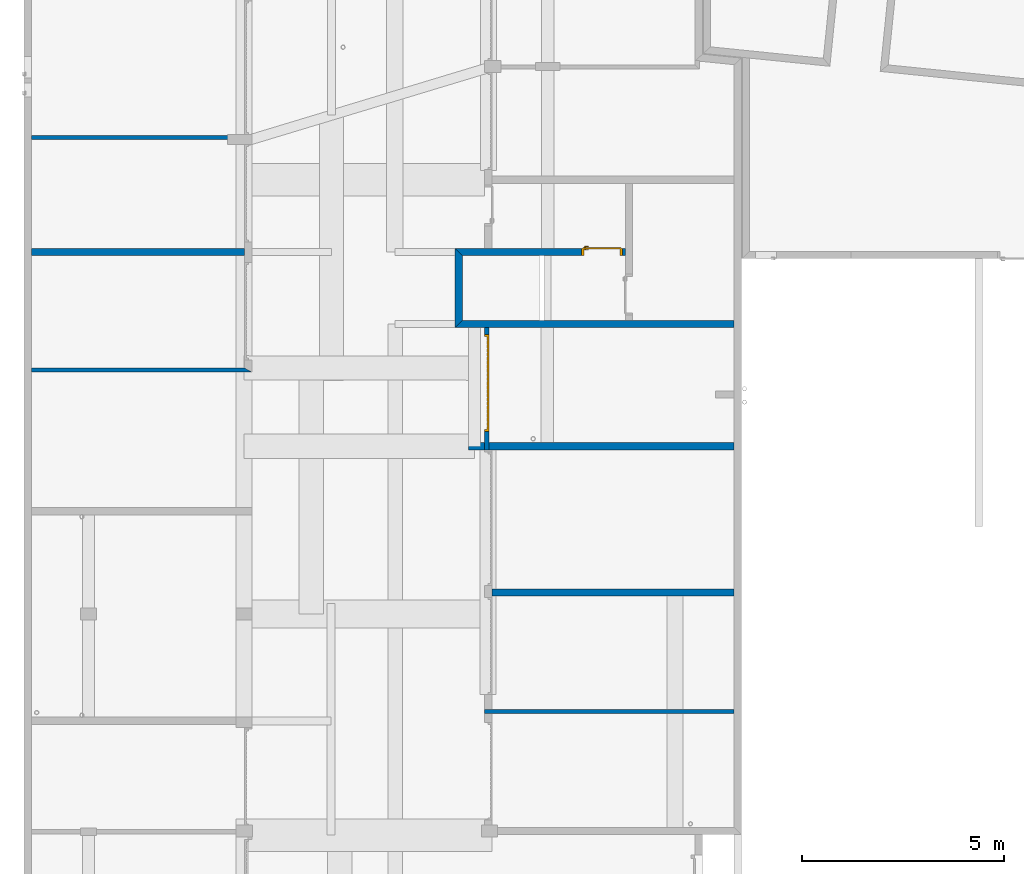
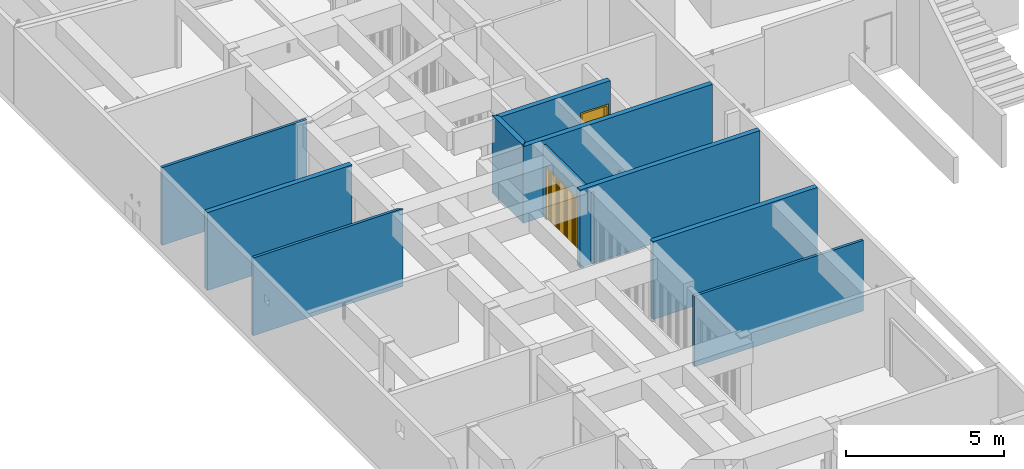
# One storey, part 9 of 41: 10 walls, 2 doors, 2 openings.
"""IFC2X3 building model written with IfcOpenShell, lengths in millimetres."""

from ifc_helpers import new_model, entity, si_unit, converted_unit, derived_unit, money_unit, direction, frame, origin_with_axes, origin_2d_with_axis, place, context, subcontext, project, spatial, polyline, rectangle, outline, extrude, faceted_brep, source, transform, mapped, material, layer, layer_set, layer_usage, type_object, element, fill, save


model = new_model("IFC2X3")

# Units and contexts
model_context = context("Model", 3, precision=0.01, world=origin_with_axes(), true_north=direction((0.0, 1.0)))
body_context = subcontext(model_context, "Body", "Model", "MODEL_VIEW")
ifc_project = project(units=[si_unit("LENGTHUNIT", "METRE", prefix="MILLI"), si_unit("AREAUNIT", "SQUARE_METRE"), si_unit("VOLUMEUNIT", "CUBIC_METRE"), converted_unit("PLANEANGLEUNIT", "DEGREE", entity("IfcPlaneAngleMeasure", 0.0174532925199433), si_unit("PLANEANGLEUNIT", "RADIAN"), dimensions=[0, 0, 0, 0, 0, 0, 0]), money_unit("USD"), converted_unit("TIMEUNIT", "Year", entity("IfcTimeMeasure", 31557600.0), si_unit("TIMEUNIT", "SECOND"), dimensions=[0, 0, 1, 0, 0, 0, 0]), si_unit("MASSUNIT", "GRAM", prefix="KILO"), si_unit("THERMODYNAMICTEMPERATUREUNIT", "DEGREE_CELSIUS"), si_unit("LUMINOUSINTENSITYUNIT", "LUMEN"), si_unit("ENERGYUNIT", "JOULE", prefix="MEGA"), derived_unit("THERMALCONDUCTANCEUNIT", [(si_unit("POWERUNIT", "WATT"), 1), (si_unit("LENGTHUNIT", "METRE"), -1), (si_unit("THERMODYNAMICTEMPERATUREUNIT", "KELVIN"), -1)]), derived_unit("SPECIFICHEATCAPACITYUNIT", [(si_unit("ENERGYUNIT", "JOULE"), 1), (si_unit("MASSUNIT", "GRAM", prefix="KILO"), -1), (si_unit("THERMODYNAMICTEMPERATUREUNIT", "KELVIN"), -1)]), derived_unit("MASSDENSITYUNIT", [(si_unit("MASSUNIT", "GRAM", prefix="KILO"), 1), (si_unit("VOLUMEUNIT", "CUBIC_METRE"), -1)])], contexts=[model_context])

# Site, building, storey
site_placement = place(None, origin_with_axes())
site = spatial("IfcSite", under=ifc_project, at=site_placement, Name="Site", CompositionType="ELEMENT")
building_placement = place(site_placement, origin_with_axes())
building = spatial("IfcBuilding", under=site, at=building_placement, Name="Bâtiment", CompositionType="ELEMENT")
storey_placement = place(building_placement, origin_with_axes())
storey = spatial("IfcBuildingStorey", under=building, at=storey_placement, Name="sousol", CompositionType="ELEMENT", Elevation=0.0)

# Walls
ifc_material_1 = material(Name="Brique 1 268964100")
ifc_layer_1 = layer(ifc_material_1, 100.0, ventilated="UNKNOWN")
ifc_layer_set_1 = layer_set([ifc_layer_1], Name="Cloison 100 gaine")
ifc_layer_usage_1 = layer_usage(ifc_layer_set_1, "AXIS2", "POSITIVE", 0.0)
wall_type_1 = type_object("IfcWallType", Name="Cloison 100 gaine 100", PredefinedType="NOTDEFINED")
wall_1_placement = place(storey_placement, frame((2228014.168637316, -643926.7765982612, 0.0), z_axis=(0.0, 0.0, 1.0), x_axis=(1.0, 0.0, 0.0)))
element("IfcWallStandardCase", 1, at=wall_1_placement, inside=storey, type_object=wall_type_1, material=ifc_layer_usage_1, Name="Mur-133", context=body_context, shape_type="SweptSolid", body=[
    extrude(outline(polyline([(0.0, 0.0), (6162.472707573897, 0.0), (6162.472707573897, 99.99999999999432), (0.0, 99.99999999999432), (0.0, 0.0)])), origin_with_axes(), (0.0, 0.0, 1.0), 2719.999999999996),
])
ifc_layer_usage_2 = layer_usage(ifc_layer_set_1, "AXIS2", "POSITIVE", 0.0)
wall_2_placement = place(storey_placement, frame((2216814.23334483, -635493.6794354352, 0.0), z_axis=(0.0, 0.0, 1.0), x_axis=(1.0, 0.0, 0.0)))
element("IfcWallStandardCase", 2, at=wall_2_placement, inside=storey, type_object=wall_type_1, material=ifc_layer_usage_2, Name="Mur-133", context=body_context, shape_type="SweptSolid", body=[
    extrude(outline(polyline([(0.0, 0.0), (5450.000000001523, 0.0), (5270.000000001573, 99.99999999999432), (0.0, 99.99999999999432), (0.0, 0.0)])), origin_with_axes(), (0.0, 0.0, 1.0), 3000.0),
])
ifc_layer_usage_3 = layer_usage(ifc_layer_set_1, "AXIS2", "POSITIVE", 0.0)
wall_3_placement = place(storey_placement, frame((2216814.23334483, -629749.321780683, 0.0), z_axis=(0.0, 0.0, 1.0), x_axis=(1.0, 0.0, 0.0)))
element("IfcWallStandardCase", 3, at=wall_3_placement, inside=storey, type_object=wall_type_1, material=ifc_layer_usage_3, Name="Mur-133", context=body_context, shape_type="SweptSolid", body=[
    extrude(outline(polyline([(0.0, 0.0), (5270.000000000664, 0.0), (5270.000000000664, 100.0000000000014), (0.0, 100.0000000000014), (0.0, 0.0)])), origin_with_axes(), (0.0, 0.0, 1.0), 3000.0),
])

# Wall, opening, door
ifc_layer_usage_4 = layer_usage(ifc_layer_set_1, "AXIS2", "POSITIVE", 0.0)
wall_4_placement = place(storey_placement, frame((2228014.233345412, -634213.5146792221, 0.0), z_axis=(0.0, 0.0, 1.0), x_axis=(-5.662972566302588e-10, -1.0, 0.0)))
wall_4 = element("IfcWallStandardCase", 4, at=wall_4_placement, inside=storey, type_object=wall_type_1, material=ifc_layer_usage_4, Name="Mur-133", context=body_context, shape_type="SweptSolid", body=[
    extrude(outline(polyline([(180.0000000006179, 0.0), (3199.829215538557, 0.0), (3199.829215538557, 100.0000000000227), (179.9999999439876, 100.0000000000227), (180.0000000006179, 0.0)])), origin_with_axes(), (0.0, 0.0, 1.0), 2769.999999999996),
])
opening_1_placement = place(wall_4_placement, frame((1550.401917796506, 0.0, 0.0), z_axis=(0.0, 0.0, 1.0), x_axis=(1.0, 0.0, 0.0)))
opening_1 = element("IfcOpeningElement", 5, at=opening_1_placement, cuts=wall_4, Name="Por-296", context=body_context, shape_type="SweptSolid", body=[
    extrude(rectangle(XDim=2400.000000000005, YDim=2050.0, at=origin_2d_with_axis()), frame((-5.663025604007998e-08, 100.0000008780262, 1025.0), z_axis=(5.66297072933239e-10, -1.0, 0.0), x_axis=(1.0, 5.66297072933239e-10, 0.0)), (0.0, 0.0, -1.0), 100.0),
    extrude(rectangle(XDim=2400.000000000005, YDim=2050.0, at=origin_2d_with_axis()), frame((-5.663025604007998e-08, 100.0000008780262, 1025.0), z_axis=(-5.66297072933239e-10, 1.0, 0.0), x_axis=(1.0, 5.66297072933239e-10, 0.0)), (0.0, 0.0, -1.0), 100.0),
])
door_style_1 = type_object("IfcDoorStyle", Name="P_garage 1", ConstructionType="NOTDEFINED", OperationType="NOTDEFINED", ParameterTakesPrecedence=False, Sizeable=False)
shared_shape_1 = source(origin_with_axes(), body_context, "Body", "Brep", [
    faceted_brep([(1200.0, 0.0, 0.0), (1200.0, -99.99999999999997, 0.0), (1150.0, -99.99999999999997, 0.0), (1150.0, 0.0, 0.0), (1200.0, 0.0, 2050.0), (1200.0, -99.99999999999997, 2050.0), (-1200.0, -99.99999999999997, 2050.0), (-1200.0, -99.99999999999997, 0.0), (-1150.0, -99.99999999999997, 0.0), (-1150.0, -99.99999999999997, 2000.0), (1150.0, -99.99999999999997, 2000.0), (1150.0, 0.0, 2000.0), (-1150.0, 0.0, 2000.0), (-1150.0, 0.0, 0.0), (-1200.0, 0.0, 0.0), (-1200.0, 0.0, 2050.0)], [[[0, 1, 2, 3]], [[4, 5, 1, 0]], [[1, 5, 6, 7, 8, 9, 10, 2]], [[3, 2, 10, 11]], [[0, 3, 11, 12, 13, 14, 15, 4]], [[15, 6, 5, 4]], [[14, 7, 6, 15]], [[13, 8, 7, 14]], [[12, 9, 8, 13]], [[11, 10, 9, 12]]]),
    faceted_brep([(1069.130434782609, -39.99999999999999, 0.0), (1069.130434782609, -39.99999999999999, 2000.0), (1069.130434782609, -26.66666666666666, 2000.0), (1069.130434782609, -26.66666666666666, 0.0), (1150.0, -39.99999999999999, 0.0), (1150.0, -39.99999999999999, 2000.0), (1150.0, -26.66666666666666, 2000.0), (1150.0, -26.66666666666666, 0.0)], [[[0, 1, 2, 3]], [[0, 4, 5, 1]], [[1, 5, 6, 2]], [[3, 2, 6, 7]], [[4, 0, 3, 7]], [[5, 4, 7, 6]]]),
    faceted_brep([(968.2608695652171, -39.99999999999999, 0.0), (968.2608695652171, -39.99999999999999, 2000.0), (968.2608695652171, -26.66666666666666, 2000.0), (968.2608695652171, -26.66666666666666, 0.0), (1049.130434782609, -39.99999999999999, 0.0), (1049.130434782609, -39.99999999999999, 2000.0), (1049.130434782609, -26.66666666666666, 2000.0), (1049.130434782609, -26.66666666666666, 0.0)], [[[0, 1, 2, 3]], [[0, 4, 5, 1]], [[1, 5, 6, 2]], [[3, 2, 6, 7]], [[4, 0, 3, 7]], [[5, 4, 7, 6]]]),
    faceted_brep([(867.3913043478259, -39.99999999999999, 0.0), (867.3913043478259, -39.99999999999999, 2000.0), (867.3913043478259, -26.66666666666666, 2000.0), (867.3913043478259, -26.66666666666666, 0.0), (948.260869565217, -39.99999999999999, 0.0), (948.260869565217, -39.99999999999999, 2000.0), (948.260869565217, -26.66666666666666, 2000.0), (948.260869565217, -26.66666666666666, 0.0)], [[[0, 1, 2, 3]], [[0, 4, 5, 1]], [[1, 5, 6, 2]], [[3, 2, 6, 7]], [[4, 0, 3, 7]], [[5, 4, 7, 6]]]),
    faceted_brep([(766.5217391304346, -39.99999999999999, 0.0), (766.5217391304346, -39.99999999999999, 2000.0), (766.5217391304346, -26.66666666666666, 2000.0), (766.5217391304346, -26.66666666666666, 0.0), (847.3913043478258, -39.99999999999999, 0.0), (847.3913043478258, -39.99999999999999, 2000.0), (847.3913043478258, -26.66666666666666, 2000.0), (847.3913043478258, -26.66666666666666, 0.0)], [[[0, 1, 2, 3]], [[0, 4, 5, 1]], [[1, 5, 6, 2]], [[3, 2, 6, 7]], [[4, 0, 3, 7]], [[5, 4, 7, 6]]]),
    faceted_brep([(665.6521739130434, -39.99999999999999, 0.0), (665.6521739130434, -39.99999999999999, 2000.0), (665.6521739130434, -26.66666666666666, 2000.0), (665.6521739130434, -26.66666666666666, 0.0), (746.5217391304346, -39.99999999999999, 0.0), (746.5217391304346, -39.99999999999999, 2000.0), (746.5217391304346, -26.66666666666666, 2000.0), (746.5217391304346, -26.66666666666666, 0.0)], [[[0, 1, 2, 3]], [[0, 4, 5, 1]], [[1, 5, 6, 2]], [[3, 2, 6, 7]], [[4, 0, 3, 7]], [[5, 4, 7, 6]]]),
    faceted_brep([(564.7826086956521, -39.99999999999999, 0.0), (564.7826086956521, -39.99999999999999, 2000.0), (564.7826086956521, -26.66666666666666, 2000.0), (564.7826086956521, -26.66666666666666, 0.0), (645.6521739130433, -39.99999999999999, 0.0), (645.6521739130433, -39.99999999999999, 2000.0), (645.6521739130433, -26.66666666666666, 2000.0), (645.6521739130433, -26.66666666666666, 0.0)], [[[0, 1, 2, 3]], [[0, 4, 5, 1]], [[1, 5, 6, 2]], [[3, 2, 6, 7]], [[4, 0, 3, 7]], [[5, 4, 7, 6]]]),
    faceted_brep([(463.9130434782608, -39.99999999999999, 0.0), (463.9130434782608, -39.99999999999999, 2000.0), (463.9130434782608, -26.66666666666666, 2000.0), (463.9130434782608, -26.66666666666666, 0.0), (544.782608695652, -39.99999999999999, 0.0), (544.782608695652, -39.99999999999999, 2000.0), (544.782608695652, -26.66666666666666, 2000.0), (544.782608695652, -26.66666666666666, 0.0)], [[[0, 1, 2, 3]], [[0, 4, 5, 1]], [[1, 5, 6, 2]], [[3, 2, 6, 7]], [[4, 0, 3, 7]], [[5, 4, 7, 6]]]),
    faceted_brep([(363.0434782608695, -39.99999999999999, 0.0), (363.0434782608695, -39.99999999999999, 2000.0), (363.0434782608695, -26.66666666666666, 2000.0), (363.0434782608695, -26.66666666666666, 0.0), (443.9130434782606, -39.99999999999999, 0.0), (443.9130434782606, -39.99999999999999, 2000.0), (443.9130434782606, -26.66666666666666, 2000.0), (443.9130434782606, -26.66666666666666, 0.0)], [[[0, 1, 2, 3]], [[0, 4, 5, 1]], [[1, 5, 6, 2]], [[3, 2, 6, 7]], [[4, 0, 3, 7]], [[5, 4, 7, 6]]]),
    faceted_brep([(262.1739130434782, -39.99999999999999, 0.0), (262.1739130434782, -39.99999999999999, 2000.0), (262.1739130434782, -26.66666666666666, 2000.0), (262.1739130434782, -26.66666666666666, 0.0), (343.0434782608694, -39.99999999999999, 0.0), (343.0434782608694, -39.99999999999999, 2000.0), (343.0434782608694, -26.66666666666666, 2000.0), (343.0434782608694, -26.66666666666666, 0.0)], [[[0, 1, 2, 3]], [[0, 4, 5, 1]], [[1, 5, 6, 2]], [[3, 2, 6, 7]], [[4, 0, 3, 7]], [[5, 4, 7, 6]]]),
    faceted_brep([(161.3043478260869, -39.99999999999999, 0.0), (161.3043478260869, -39.99999999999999, 2000.0), (161.3043478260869, -26.66666666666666, 2000.0), (161.3043478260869, -26.66666666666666, 0.0), (242.1739130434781, -39.99999999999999, 0.0), (242.1739130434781, -39.99999999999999, 2000.0), (242.1739130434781, -26.66666666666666, 2000.0), (242.1739130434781, -26.66666666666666, 0.0)], [[[0, 1, 2, 3]], [[0, 4, 5, 1]], [[1, 5, 6, 2]], [[3, 2, 6, 7]], [[4, 0, 3, 7]], [[5, 4, 7, 6]]]),
    faceted_brep([(60.43478260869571, -39.99999999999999, 0.0), (60.43478260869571, -39.99999999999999, 2000.0), (60.43478260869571, -26.66666666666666, 2000.0), (60.43478260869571, -26.66666666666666, 0.0), (141.3043478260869, -39.99999999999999, 0.0), (141.3043478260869, -39.99999999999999, 2000.0), (141.3043478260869, -26.66666666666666, 2000.0), (141.3043478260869, -26.66666666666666, 0.0)], [[[0, 1, 2, 3]], [[0, 4, 5, 1]], [[1, 5, 6, 2]], [[3, 2, 6, 7]], [[4, 0, 3, 7]], [[5, 4, 7, 6]]]),
    faceted_brep([(-40.43478260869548, -39.99999999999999, 0.0), (-40.43478260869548, -39.99999999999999, 2000.0), (-40.43478260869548, -26.66666666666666, 2000.0), (-40.43478260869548, -26.66666666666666, 0.0), (40.4347826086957, -39.99999999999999, 0.0), (40.4347826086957, -39.99999999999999, 2000.0), (40.4347826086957, -26.66666666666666, 2000.0), (40.4347826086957, -26.66666666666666, 0.0)], [[[0, 1, 2, 3]], [[0, 4, 5, 1]], [[1, 5, 6, 2]], [[3, 2, 6, 7]], [[4, 0, 3, 7]], [[5, 4, 7, 6]]]),
    faceted_brep([(-141.3043478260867, -39.99999999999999, 0.0), (-141.3043478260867, -39.99999999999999, 2000.0), (-141.3043478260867, -26.66666666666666, 2000.0), (-141.3043478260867, -26.66666666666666, 0.0), (-60.43478260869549, -39.99999999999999, 0.0), (-60.43478260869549, -39.99999999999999, 2000.0), (-60.43478260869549, -26.66666666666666, 2000.0), (-60.43478260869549, -26.66666666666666, 0.0)], [[[0, 1, 2, 3]], [[0, 4, 5, 1]], [[1, 5, 6, 2]], [[3, 2, 6, 7]], [[4, 0, 3, 7]], [[5, 4, 7, 6]]]),
    faceted_brep([(-242.1739130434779, -39.99999999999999, 0.0), (-242.1739130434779, -39.99999999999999, 2000.0), (-242.1739130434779, -26.66666666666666, 2000.0), (-242.1739130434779, -26.66666666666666, 0.0), (-161.3043478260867, -39.99999999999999, 0.0), (-161.3043478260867, -39.99999999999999, 2000.0), (-161.3043478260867, -26.66666666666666, 2000.0), (-161.3043478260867, -26.66666666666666, 0.0)], [[[0, 1, 2, 3]], [[0, 4, 5, 1]], [[1, 5, 6, 2]], [[3, 2, 6, 7]], [[4, 0, 3, 7]], [[5, 4, 7, 6]]]),
    faceted_brep([(-343.0434782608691, -39.99999999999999, 0.0), (-343.0434782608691, -39.99999999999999, 2000.0), (-343.0434782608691, -26.66666666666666, 2000.0), (-343.0434782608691, -26.66666666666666, 0.0), (-262.1739130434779, -39.99999999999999, 0.0), (-262.1739130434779, -39.99999999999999, 2000.0), (-262.1739130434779, -26.66666666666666, 2000.0), (-262.1739130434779, -26.66666666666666, 0.0)], [[[0, 1, 2, 3]], [[0, 4, 5, 1]], [[1, 5, 6, 2]], [[3, 2, 6, 7]], [[4, 0, 3, 7]], [[5, 4, 7, 6]]]),
    faceted_brep([(-443.9130434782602, -39.99999999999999, 0.0), (-443.9130434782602, -39.99999999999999, 2000.0), (-443.9130434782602, -26.66666666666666, 2000.0), (-443.9130434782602, -26.66666666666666, 0.0), (-363.0434782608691, -39.99999999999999, 0.0), (-363.0434782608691, -39.99999999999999, 2000.0), (-363.0434782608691, -26.66666666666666, 2000.0), (-363.0434782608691, -26.66666666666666, 0.0)], [[[0, 1, 2, 3]], [[0, 4, 5, 1]], [[1, 5, 6, 2]], [[3, 2, 6, 7]], [[4, 0, 3, 7]], [[5, 4, 7, 6]]]),
    faceted_brep([(-544.7826086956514, -39.99999999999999, 0.0), (-544.7826086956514, -39.99999999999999, 2000.0), (-544.7826086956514, -26.66666666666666, 2000.0), (-544.7826086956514, -26.66666666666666, 0.0), (-463.9130434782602, -39.99999999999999, 0.0), (-463.9130434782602, -39.99999999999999, 2000.0), (-463.9130434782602, -26.66666666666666, 2000.0), (-463.9130434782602, -26.66666666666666, 0.0)], [[[0, 1, 2, 3]], [[0, 4, 5, 1]], [[1, 5, 6, 2]], [[3, 2, 6, 7]], [[4, 0, 3, 7]], [[5, 4, 7, 6]]]),
    faceted_brep([(-645.6521739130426, -39.99999999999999, 0.0), (-645.6521739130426, -39.99999999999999, 2000.0), (-645.6521739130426, -26.66666666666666, 2000.0), (-645.6521739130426, -26.66666666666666, 0.0), (-564.7826086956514, -39.99999999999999, 0.0), (-564.7826086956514, -39.99999999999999, 2000.0), (-564.7826086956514, -26.66666666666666, 2000.0), (-564.7826086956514, -26.66666666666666, 0.0)], [[[0, 1, 2, 3]], [[0, 4, 5, 1]], [[1, 5, 6, 2]], [[3, 2, 6, 7]], [[4, 0, 3, 7]], [[5, 4, 7, 6]]]),
    faceted_brep([(-746.5217391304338, -39.99999999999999, 0.0), (-746.5217391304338, -39.99999999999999, 2000.0), (-746.5217391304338, -26.66666666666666, 2000.0), (-746.5217391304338, -26.66666666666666, 0.0), (-665.6521739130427, -39.99999999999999, 0.0), (-665.6521739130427, -39.99999999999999, 2000.0), (-665.6521739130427, -26.66666666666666, 2000.0), (-665.6521739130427, -26.66666666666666, 0.0)], [[[0, 1, 2, 3]], [[0, 4, 5, 1]], [[1, 5, 6, 2]], [[3, 2, 6, 7]], [[4, 0, 3, 7]], [[5, 4, 7, 6]]]),
    faceted_brep([(-847.391304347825, -39.99999999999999, 0.0), (-847.391304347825, -39.99999999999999, 2000.0), (-847.391304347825, -26.66666666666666, 2000.0), (-847.391304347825, -26.66666666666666, 0.0), (-766.5217391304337, -39.99999999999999, 0.0), (-766.5217391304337, -39.99999999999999, 2000.0), (-766.5217391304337, -26.66666666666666, 2000.0), (-766.5217391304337, -26.66666666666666, 0.0)], [[[0, 1, 2, 3]], [[0, 4, 5, 1]], [[1, 5, 6, 2]], [[3, 2, 6, 7]], [[4, 0, 3, 7]], [[5, 4, 7, 6]]]),
    faceted_brep([(-948.2608695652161, -39.99999999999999, 0.0), (-948.2608695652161, -39.99999999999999, 2000.0), (-948.2608695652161, -26.66666666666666, 2000.0), (-948.2608695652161, -26.66666666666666, 0.0), (-867.391304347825, -39.99999999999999, 0.0), (-867.391304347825, -39.99999999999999, 2000.0), (-867.391304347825, -26.66666666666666, 2000.0), (-867.391304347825, -26.66666666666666, 0.0)], [[[0, 1, 2, 3]], [[0, 4, 5, 1]], [[1, 5, 6, 2]], [[3, 2, 6, 7]], [[4, 0, 3, 7]], [[5, 4, 7, 6]]]),
    faceted_brep([(-1049.130434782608, -39.99999999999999, 0.0), (-1049.130434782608, -39.99999999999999, 2000.0), (-1049.130434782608, -26.66666666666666, 2000.0), (-1049.130434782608, -26.66666666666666, 0.0), (-968.2608695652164, -39.99999999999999, 0.0), (-968.2608695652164, -39.99999999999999, 2000.0), (-968.2608695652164, -26.66666666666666, 2000.0), (-968.2608695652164, -26.66666666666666, 0.0)], [[[0, 1, 2, 3]], [[0, 4, 5, 1]], [[1, 5, 6, 2]], [[3, 2, 6, 7]], [[4, 0, 3, 7]], [[5, 4, 7, 6]]]),
    faceted_brep([(-1149.999999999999, -39.99999999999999, 0.0), (-1149.999999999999, -39.99999999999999, 2000.0), (-1149.999999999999, -26.66666666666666, 2000.0), (-1149.999999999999, -26.66666666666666, 0.0), (-1069.130434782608, -39.99999999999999, 0.0), (-1069.130434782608, -39.99999999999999, 2000.0), (-1069.130434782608, -26.66666666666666, 2000.0), (-1069.130434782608, -26.66666666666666, 0.0)], [[[0, 1, 2, 3]], [[0, 4, 5, 1]], [[1, 5, 6, 2]], [[3, 2, 6, 7]], [[4, 0, 3, 7]], [[5, 4, 7, 6]]]),
    faceted_brep([(1150.0, -26.66666666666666, 0.0), (-1150.0, -26.66666666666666, 0.0), (-1150.0, 0.0, 0.0), (1150.0, 0.0, 0.0), (1150.0, -26.66666666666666, 2000.0), (-1150.0, -26.66666666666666, 2000.0), (-1150.0, 0.0, 2000.0), (1150.0, 0.0, 2000.0)], [[[0, 1, 2, 3]], [[0, 4, 5, 1]], [[1, 5, 6, 2]], [[3, 2, 6, 7]], [[4, 0, 3, 7]], [[5, 4, 7, 6]]]),
])
door_1_placement = place(opening_1_placement, frame((-1200.000000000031, 1.13686837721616e-10, 0.0), z_axis=(0.0, 0.0, 1.0), x_axis=(1.0, 0.0, 0.0)))
door_1 = element("IfcDoor", 6, at=door_1_placement, inside=storey, type_object=door_style_1, Name="Por-296", OverallHeight=2050.0, OverallWidth=2400.0, context=body_context, shape_type="MappedRepresentation", body=[
    mapped(shared_shape_1, transform((1199.999999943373, 100.0000008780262, 0.0))),
])
fill(opening_1, door_1)

# Walls
ifc_material_2 = material(Name="Parpaing 314940890")
ifc_layer_2 = layer(ifc_material_2, 180.0, ventilated="UNKNOWN")
ifc_layer_set_2 = layer_set([ifc_layer_2], Name="Beton  18 0170347028")
ifc_layer_usage_5 = layer_usage(ifc_layer_set_2, "AXIS2", "POSITIVE", 0.0)
wall_type_2 = type_object("IfcWallType", Name="Beton  18 0170347028 180", PredefinedType="NOTDEFINED")
wall_5_placement = place(storey_placement, frame((2227463.753206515, -634213.5146792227, 0.0), z_axis=(0.0, 0.0, 1.0), x_axis=(0.0, 1.0, 0.0)))
element("IfcWallStandardCase", 7, at=wall_5_placement, inside=storey, type_object=wall_type_2, material=ifc_layer_usage_5, Name="Mur-133", context=body_context, shape_type="SweptSolid", body=[
    extrude(outline(polyline([(0.0, 0.0), (1600.00000000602, 0.0), (1780.000000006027, 179.99999999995), (-180.0000000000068, 179.99999999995), (0.0, 0.0)])), origin_with_axes(), (0.0, 0.0, 1.0), 3000.0),
])
ifc_layer_usage_6 = layer_usage(ifc_layer_set_2, "AXIS2", "NEGATIVE", 0.0)
wall_6_placement = place(storey_placement, frame((2227463.753206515, -634213.5146792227, 0.0), z_axis=(0.0, 0.0, 1.0), x_axis=(1.0, 0.0, 0.0)))
element("IfcWallStandardCase", 8, at=wall_6_placement, inside=storey, type_object=wall_type_2, material=ifc_layer_usage_6, Name="Mur-133", context=body_context, shape_type="SweptSolid", body=[
    extrude(outline(polyline([(-179.99999999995, -180.0000000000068), (6712.88813837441, -180.0000000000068), (6712.88813837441, 0.0), (0.0, 0.0), (-179.99999999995, -180.0000000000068)])), origin_with_axes(), (0.0, 0.0, 1.0), 2950.0),
])

# Wall, opening, door
ifc_layer_usage_7 = layer_usage(ifc_layer_set_2, "AXIS2", "POSITIVE", 0.0)
wall_7_placement = place(storey_placement, frame((2227463.753206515, -632613.5146792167, 0.0), z_axis=(0.0, 0.0, 1.0), x_axis=(1.0, 0.0, 0.0)))
wall_7 = element("IfcWallStandardCase", 9, at=wall_7_placement, inside=storey, type_object=wall_type_2, material=ifc_layer_usage_7, Name="Mur-133", context=body_context, shape_type="SweptSolid", body=[
    extrude(outline(polyline([(0.0, 0.0), (4025.102469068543, 0.0), (4025.102469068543, 180.0000000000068), (-179.99999999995, 180.0000000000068), (0.0, 0.0)])), origin_with_axes(), (0.0, 0.0, 1.0), 2950.0),
])
opening_2_placement = place(wall_7_placement, frame((3447.66105387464, 0.0, 0.0), z_axis=(0.0, 0.0, 1.0), x_axis=(1.0, 0.0, 0.0)))
opening_2 = element("IfcOpeningElement", 10, at=opening_2_placement, cuts=wall_7, Name="Por-299", context=body_context, shape_type="SweptSolid", body=[
    extrude(rectangle(XDim=1010.00001192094, YDim=2080.0, at=origin_2d_with_axis()), frame((5.960487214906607e-06, -180.0000000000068, 1040.0), z_axis=(0.0, 1.0, 0.0), x_axis=(1.0, 0.0, 0.0)), (0.0, 0.0, 1.0), 360.0),
])
door_style_2 = type_object("IfcDoorStyle", Name="Porte_1v", ConstructionType="NOTDEFINED", OperationType="NOTDEFINED", ParameterTakesPrecedence=False, Sizeable=False)
shared_shape_2 = source(origin_with_axes(), body_context, "Body", "Brep", [
    faceted_brep([(505.0, 0.0, 0.0), (465.0, 0.0, 0.0), (464.9999999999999, 0.0, 2040.0), (-464.9999999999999, 0.0, 2040.0), (-465.0, 0.0, 0.0), (-505.0, 0.0, 0.0), (-505.0, 0.0, 2080.0), (505.0, 0.0, 2080.0), (505.0, -180.0, 0.0), (450.0, -180.0, 0.0), (450.0, -15.0, 0.0), (465.0, -15.0, 0.0), (464.9999999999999, -15.0, 2040.0), (-464.9999999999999, -15.0, 2040.0), (-465.0, -15.0, 0.0), (-450.0, -15.0, 0.0), (-450.0, -180.0, 0.0), (-505.0, -180.0, 0.0), (-505.0, -180.0, 2080.0), (505.0, -180.0, 2080.0), (-450.0, -180.0, 2025.0), (450.0, -180.0, 2025.0), (450.0, -15.0, 2025.0), (-450.0, -15.0, 2025.0)], [[[0, 1, 2, 3, 4, 5, 6, 7]], [[0, 8, 9, 10, 11, 1]], [[1, 11, 12, 2]], [[2, 12, 13, 3]], [[3, 13, 14, 4]], [[5, 4, 14, 15, 16, 17]], [[18, 6, 5, 17]], [[19, 7, 6, 18]], [[8, 0, 7, 19]], [[9, 8, 19, 18, 17, 16, 20, 21]], [[10, 9, 21, 22]], [[11, 10, 22, 23, 15, 14, 13, 12]], [[23, 20, 16, 15]], [[22, 21, 20, 23]]]),
    faceted_brep([(-400.0, -15.0, 900.0), (-440.0, -15.0, 900.0), (-440.0, -15.0, 1100.0), (-400.0, -15.0, 1100.0), (-400.0, -25.0, 900.0), (-440.0, -25.0, 900.0), (-440.0, -25.0, 1100.0), (-400.0, -25.0, 1100.0)], [[[0, 1, 2, 3]], [[1, 0, 4, 5]], [[2, 1, 5, 6]], [[3, 2, 6, 7]], [[0, 3, 7, 4]], [[5, 4, 7, 6]]]),
    faceted_brep([(-329.9999999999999, -25.0, 1000.0), (-430.0, -25.0, 1000.0), (-430.0, -25.0, 1020.0), (-329.9999999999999, -25.0, 1020.0), (-329.9999999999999, -45.0, 1000.0), (-430.0, -45.0, 1000.0), (-430.0, -45.0, 1020.0), (-329.9999999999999, -45.0, 1020.0)], [[[0, 1, 2, 3]], [[1, 0, 4, 5]], [[2, 1, 5, 6]], [[3, 2, 6, 7]], [[0, 3, 7, 4]], [[5, 4, 7, 6]]]),
    faceted_brep([(-400.0, 35.0, 900.0), (-440.0, 35.0, 900.0), (-440.0, 35.0, 1100.0), (-400.0, 35.0, 1100.0), (-400.0, 25.0, 900.0), (-440.0, 25.0, 900.0), (-440.0, 25.0, 1100.0), (-400.0, 25.0, 1100.0)], [[[0, 1, 2, 3]], [[1, 0, 4, 5]], [[2, 1, 5, 6]], [[3, 2, 6, 7]], [[0, 3, 7, 4]], [[5, 4, 7, 6]]]),
    faceted_brep([(-329.9999999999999, 55.00000000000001, 1000.0), (-430.0, 55.00000000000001, 1000.0), (-430.0, 55.00000000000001, 1020.0), (-329.9999999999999, 55.00000000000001, 1020.0), (-329.9999999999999, 35.0, 1000.0), (-430.0, 35.0, 1000.0), (-430.0, 35.0, 1020.0), (-329.9999999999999, 35.0, 1020.0)], [[[0, 1, 2, 3]], [[1, 0, 4, 5]], [[2, 1, 5, 6]], [[3, 2, 6, 7]], [[0, 3, 7, 4]], [[5, 4, 7, 6]]]),
    faceted_brep([(-465.0, 25.0, 0.0), (465.0, 25.0, 0.0), (465.0, -15.0, 0.0), (-465.0, -15.0, 0.0), (-465.0, 25.0, 2040.0), (465.0, 25.0, 2040.0), (465.0, -15.0, 2040.0), (-465.0, -15.0, 2040.0)], [[[0, 1, 2, 3]], [[0, 4, 5, 1]], [[1, 5, 6, 2]], [[3, 2, 6, 7]], [[4, 0, 3, 7]], [[5, 4, 7, 6]]]),
])
door_2_placement = place(opening_2_placement, frame((-464.9999999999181, 0.0, 0.0), z_axis=(0.0, 0.0, 1.0), x_axis=(1.0, 0.0, 0.0)))
door_2 = element("IfcDoor", 11, at=door_2_placement, inside=storey, type_object=door_style_2, Name="Por-299", OverallHeight=2040.0, OverallWidth=930.0, context=body_context, shape_type="MappedRepresentation", body=[
    mapped(shared_shape_2, transform((465.0000000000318, 180.0000000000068, 0.0))),
])
fill(opening_2, door_2)

# Walls
ifc_layer_usage_8 = layer_usage(ifc_layer_set_2, "AXIS2", "NEGATIVE", 0.0)
wall_8_placement = place(storey_placement, frame((2222264.233344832, -632613.5146792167, 0.0), z_axis=(0.0, 0.0, 1.0), x_axis=(-1.0, 0.0, 0.0)))
element("IfcWallStandardCase", 12, at=wall_8_placement, inside=storey, type_object=wall_type_2, material=ifc_layer_usage_8, Name="Mur-133", context=body_context, shape_type="SweptSolid", body=[
    extrude(outline(polyline([(180.0000000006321, -180.0000000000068), (5450.00000000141, -180.0000000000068), (5450.00000000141, 0.0), (180.0000000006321, 0.0), (180.0000000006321, -180.0000000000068)])), origin_with_axes(), (0.0, 0.0, 1.0), 3000.0),
])
ifc_layer_usage_9 = layer_usage(ifc_layer_set_2, "AXIS2", "POSITIVE", 0.0)
wall_9_placement = place(storey_placement, frame((2228014.233341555, -641025.3255383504, 0.0), z_axis=(0.0, 0.0, 1.0), x_axis=(1.0, 0.0, 0.0)))
element("IfcWallStandardCase", 13, at=wall_9_placement, inside=storey, type_object=wall_type_2, material=ifc_layer_usage_9, Name="Mur-133", context=body_context, shape_type="SweptSolid", body=[
    extrude(outline(polyline([(179.99999999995, 0.0), (6162.408003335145, 0.0), (6162.408003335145, 180.0000000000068), (180.0000001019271, 180.0000000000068), (179.99999999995, 0.0)])), origin_with_axes(), (0.0, 0.0, 1.0), 3000.0),
])
ifc_layer_usage_10 = layer_usage(ifc_layer_set_2, "AXIS2", "NEGATIVE", 0.0)
wall_10_placement = place(storey_placement, frame((2227614.233343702, -637233.3438947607, 0.0), z_axis=(0.0, 0.0, 1.0), x_axis=(1.0, 0.0, 0.0)))
element("IfcWallStandardCase", 14, at=wall_10_placement, inside=storey, type_object=wall_type_2, material=ifc_layer_usage_10, Name="Mur-133", context=body_context, shape_type="SweptSolid", body=[
    extrude(outline(polyline([(0.0, -180.0000000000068), (6562.408001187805, -180.0000000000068), (6562.408001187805, 0.0), (0.0, 0.0), (0.0, -180.0000000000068)])), origin_with_axes(), (0.0, 0.0, 1.0), 3000.0),
])

save(model, "model.ifc")
